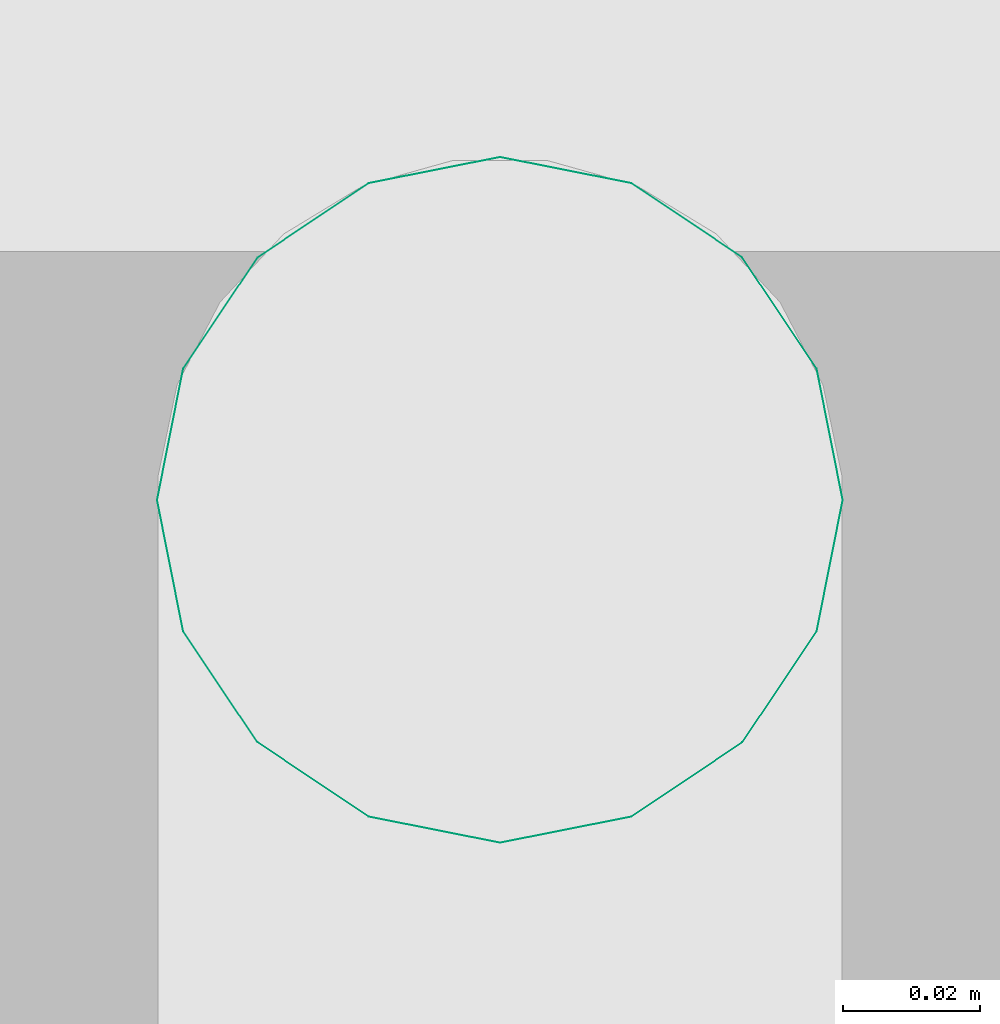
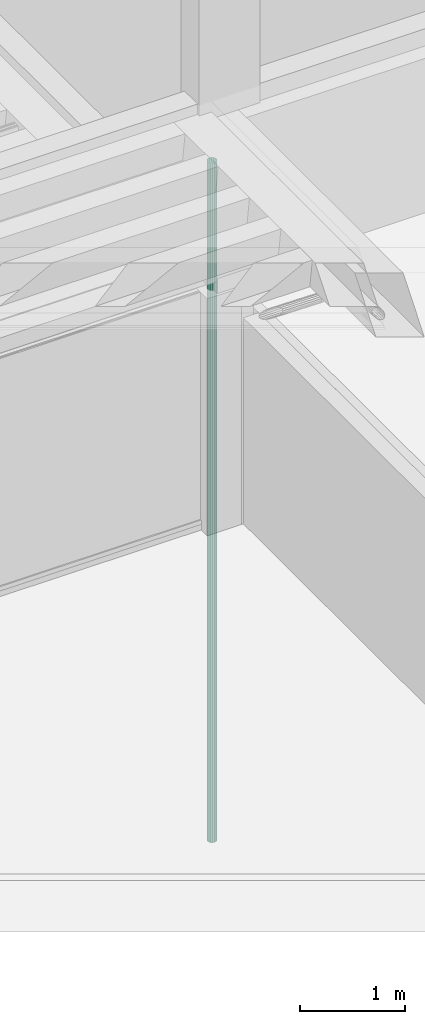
# One storey, part 55 of 108: 1 flow segment.
"""IFC2X3 building model written with IfcOpenShell, lengths in metres."""

from ifc_helpers import new_model, entity, si_unit, converted_unit, derived_unit, money_unit, direction, frame, origin_with_axes, place, context, subcontext, project, spatial, faceted_brep, material, type_object, element, save


model = new_model("IFC2X3")

# Units and contexts
model_context = context("Model", 3, precision=1e-05, world=origin_with_axes(), true_north=direction((0.0, 1.0)))
body_context = subcontext(model_context, "Body", "Model", "MODEL_VIEW", scale=1.0)
ifc_project = project(units=[si_unit("LENGTHUNIT", "METRE"), si_unit("AREAUNIT", "SQUARE_METRE"), si_unit("VOLUMEUNIT", "CUBIC_METRE"), si_unit("ABSORBEDDOSEUNIT", "GRAY"), si_unit("AMOUNTOFSUBSTANCEUNIT", "MOLE"), si_unit("DOSEEQUIVALENTUNIT", "SIEVERT"), si_unit("ELECTRICCAPACITANCEUNIT", "FARAD"), si_unit("ELECTRICCHARGEUNIT", "COULOMB"), si_unit("ELECTRICCONDUCTANCEUNIT", "SIEMENS"), si_unit("ELECTRICCURRENTUNIT", "AMPERE"), si_unit("ELECTRICRESISTANCEUNIT", "OHM"), si_unit("ELECTRICVOLTAGEUNIT", "VOLT"), si_unit("ENERGYUNIT", "JOULE"), si_unit("FORCEUNIT", "NEWTON"), si_unit("FREQUENCYUNIT", "HERTZ"), si_unit("ILLUMINANCEUNIT", "LUX"), si_unit("INDUCTANCEUNIT", "HENRY"), si_unit("LUMINOUSFLUXUNIT", "LUMEN"), si_unit("LUMINOUSINTENSITYUNIT", "CANDELA"), si_unit("MAGNETICFLUXDENSITYUNIT", "TESLA"), si_unit("MAGNETICFLUXUNIT", "WEBER"), si_unit("MASSUNIT", "GRAM"), converted_unit("PLANEANGLEUNIT", "degree", entity("IfcReal", 0.0174532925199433), si_unit("PLANEANGLEUNIT", "RADIAN"), dimensions=[0, 0, 0, 0, 0, 0, 0]), si_unit("POWERUNIT", "WATT"), si_unit("PRESSUREUNIT", "PASCAL"), si_unit("RADIOACTIVITYUNIT", "BECQUEREL"), si_unit("SOLIDANGLEUNIT", "STERADIAN"), si_unit("THERMODYNAMICTEMPERATUREUNIT", "KELVIN"), si_unit("TIMEUNIT", "SECOND"), derived_unit("ACCELERATIONUNIT", [(si_unit("LENGTHUNIT", "METRE"), 1), (si_unit("TIMEUNIT", "SECOND"), -2)]), derived_unit("ANGULARVELOCITYUNIT", [(converted_unit("PLANEANGLEUNIT", "degree", entity("IfcReal", 0.0174532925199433), si_unit("PLANEANGLEUNIT", "RADIAN"), dimensions=[0, 0, 0, 0, 0, 0, 0]), 1), (si_unit("TIMEUNIT", "SECOND"), -1)]), derived_unit("CURVATUREUNIT", [(converted_unit("PLANEANGLEUNIT", "degree", entity("IfcReal", 0.0174532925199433), si_unit("PLANEANGLEUNIT", "RADIAN"), dimensions=[0, 0, 0, 0, 0, 0, 0]), 1), (si_unit("LENGTHUNIT", "METRE"), -1)]), derived_unit("DYNAMICVISCOSITYUNIT", [(si_unit("PRESSUREUNIT", "PASCAL"), 1), (si_unit("TIMEUNIT", "SECOND"), 1)]), derived_unit("HEATFLUXDENSITYUNIT", [(si_unit("POWERUNIT", "WATT"), 1), (si_unit("LENGTHUNIT", "METRE"), -2)]), derived_unit("HEATINGVALUEUNIT", [(si_unit("ENERGYUNIT", "JOULE"), 1), (si_unit("MASSUNIT", "GRAM"), -1)]), derived_unit("INTEGERCOUNTRATEUNIT", [(si_unit("TIMEUNIT", "SECOND"), -1)]), derived_unit("IONCONCENTRATIONUNIT", [(si_unit("MASSUNIT", "GRAM"), 1), (si_unit("VOLUMEUNIT", "CUBIC_METRE"), -1)]), derived_unit("ISOTHERMALMOISTURECAPACITYUNIT", [(si_unit("VOLUMEUNIT", "CUBIC_METRE"), 1), (si_unit("MASSUNIT", "GRAM"), -1)]), derived_unit("KINEMATICVISCOSITYUNIT", [(si_unit("AREAUNIT", "SQUARE_METRE"), 1), (si_unit("TIMEUNIT", "SECOND"), -1)]), derived_unit("LINEARFORCEUNIT", [(si_unit("FORCEUNIT", "NEWTON"), 1), (si_unit("LENGTHUNIT", "METRE"), -1)]), derived_unit("LINEARMOMENTUNIT", [(si_unit("FORCEUNIT", "NEWTON"), 1), (si_unit("LENGTHUNIT", "METRE"), -1)]), derived_unit("LINEARSTIFFNESSUNIT", [(si_unit("FORCEUNIT", "NEWTON"), 1), (si_unit("LENGTHUNIT", "METRE"), -1)]), derived_unit("LINEARVELOCITYUNIT", [(si_unit("LENGTHUNIT", "METRE"), 1), (si_unit("TIMEUNIT", "SECOND"), -1)]), derived_unit("LUMINOUSINTENSITYDISTRIBUTIONUNIT", [(si_unit("LUMINOUSINTENSITYUNIT", "CANDELA"), 1), (si_unit("LUMINOUSFLUXUNIT", "LUMEN"), -1)]), derived_unit("MASSDENSITYUNIT", [(si_unit("MASSUNIT", "GRAM"), 1), (si_unit("VOLUMEUNIT", "CUBIC_METRE"), -1)]), derived_unit("MASSFLOWRATEUNIT", [(si_unit("MASSUNIT", "GRAM"), 1), (si_unit("TIMEUNIT", "SECOND"), -1)]), derived_unit("MASSPERLENGTHUNIT", [(si_unit("MASSUNIT", "GRAM"), 1), (si_unit("LENGTHUNIT", "METRE"), -1)]), derived_unit("MODULUSOFELASTICITYUNIT", [(si_unit("FORCEUNIT", "NEWTON"), 1), (si_unit("AREAUNIT", "SQUARE_METRE"), -1)]), derived_unit("MODULUSOFLINEARSUBGRADEREACTIONUNIT", [(si_unit("FORCEUNIT", "NEWTON"), 1), (si_unit("LENGTHUNIT", "METRE"), -2)]), derived_unit("MODULUSOFROTATIONALSUBGRADEREACTIONUNIT", [(si_unit("FORCEUNIT", "NEWTON"), 1), (si_unit("LENGTHUNIT", "METRE"), 1)]), derived_unit("MODULUSOFSUBGRADEREACTIONUNIT", [(si_unit("FORCEUNIT", "NEWTON"), 1), (si_unit("VOLUMEUNIT", "CUBIC_METRE"), -1)]), derived_unit("MOISTUREDIFFUSIVITYUNIT", [(si_unit("VOLUMEUNIT", "CUBIC_METRE"), 1), (si_unit("TIMEUNIT", "SECOND"), -1)]), derived_unit("MOLECULARWEIGHTUNIT", [(si_unit("MASSUNIT", "GRAM"), 1), (si_unit("AMOUNTOFSUBSTANCEUNIT", "MOLE"), -1)]), derived_unit("PLANARFORCEUNIT", [(si_unit("FORCEUNIT", "NEWTON"), 1), (si_unit("LENGTHUNIT", "METRE"), -2)]), derived_unit("ROTATIONALFREQUENCYUNIT", [(si_unit("TIMEUNIT", "SECOND"), -1)]), derived_unit("ROTATIONALMASSUNIT", [(si_unit("MASSUNIT", "GRAM"), 1), (si_unit("LENGTHUNIT", "METRE"), 2)]), derived_unit("ROTATIONALSTIFFNESSUNIT", [(si_unit("FORCEUNIT", "NEWTON"), 1), (si_unit("LENGTHUNIT", "METRE"), 1), (converted_unit("PLANEANGLEUNIT", "degree", entity("IfcReal", 0.0174532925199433), si_unit("PLANEANGLEUNIT", "RADIAN"), dimensions=[0, 0, 0, 0, 0, 0, 0]), -1)]), derived_unit("SECTIONAREAINTEGRALUNIT", [(si_unit("LENGTHUNIT", "METRE"), 5)]), derived_unit("SECTIONMODULUSUNIT", [(si_unit("LENGTHUNIT", "METRE"), 3)]), derived_unit("SHEARMODULUSUNIT", [(si_unit("FORCEUNIT", "NEWTON"), 1), (si_unit("AREAUNIT", "SQUARE_METRE"), -1)]), derived_unit("SOUNDPOWERUNIT", [(si_unit("ENERGYUNIT", "JOULE"), 1), (si_unit("TIMEUNIT", "SECOND"), -1)]), derived_unit("SPECIFICHEATCAPACITYUNIT", [(si_unit("FORCEUNIT", "NEWTON"), 1), (si_unit("MASSUNIT", "GRAM"), -1), (si_unit("THERMODYNAMICTEMPERATUREUNIT", "KELVIN"), -1)]), derived_unit("TEMPERATUREGRADIENTUNIT", [(si_unit("THERMODYNAMICTEMPERATUREUNIT", "KELVIN"), 1), (si_unit("LENGTHUNIT", "METRE"), -1)]), derived_unit("THERMALADMITTANCEUNIT", [(si_unit("POWERUNIT", "WATT"), 1), (si_unit("AREAUNIT", "SQUARE_METRE"), -1), (si_unit("THERMODYNAMICTEMPERATUREUNIT", "KELVIN"), -1)]), derived_unit("THERMALCONDUCTANCEUNIT", [(si_unit("POWERUNIT", "WATT"), 1), (si_unit("LENGTHUNIT", "METRE"), -1), (si_unit("THERMODYNAMICTEMPERATUREUNIT", "KELVIN"), -1)]), derived_unit("THERMALEXPANSIONCOEFFICIENTUNIT", [(si_unit("THERMODYNAMICTEMPERATUREUNIT", "KELVIN"), -1)]), derived_unit("THERMALRESISTANCEUNIT", [(si_unit("AREAUNIT", "SQUARE_METRE"), 1), (si_unit("POWERUNIT", "WATT"), -1)]), derived_unit("THERMALTRANSMITTANCEUNIT", [(si_unit("POWERUNIT", "WATT"), 1), (si_unit("AREAUNIT", "SQUARE_METRE"), -1), (si_unit("THERMODYNAMICTEMPERATUREUNIT", "KELVIN"), -1)]), derived_unit("TORQUEUNIT", [(si_unit("FORCEUNIT", "NEWTON"), 1), (si_unit("LENGTHUNIT", "METRE"), 1)]), derived_unit("VAPORPERMEABILITYUNIT", [(si_unit("MASSUNIT", "GRAM"), 1), (si_unit("TIMEUNIT", "SECOND"), -1)]), derived_unit("VOLUMETRICFLOWRATEUNIT", [(si_unit("VOLUMEUNIT", "CUBIC_METRE"), 1), (si_unit("TIMEUNIT", "SECOND"), -1)]), derived_unit("WARPINGCONSTANTUNIT", [(si_unit("LENGTHUNIT", "METRE"), 6)]), derived_unit("WARPINGMOMENTUNIT", [(si_unit("FORCEUNIT", "NEWTON"), 1), (si_unit("LENGTHUNIT", "METRE"), 2)]), money_unit("GBP")], contexts=[model_context])

# Site, building, storey
site_placement = place(None, origin_with_axes())
site = spatial("IfcSite", under=ifc_project, at=site_placement, Name="Site", CompositionType="ELEMENT")
building_placement = place(site_placement, origin_with_axes())
building = spatial("IfcBuilding", under=site, at=building_placement, Name="Building01", CompositionType="ELEMENT")
storey_placement = place(building_placement, origin_with_axes())
storey = spatial("IfcBuildingStorey", under=building, at=storey_placement, Name="GF", CompositionType="ELEMENT", Elevation=0.0)

# Flow segment
ifc_material = material(Name="M_BSUK_ColdWater")
pipe_segment_type = type_object("IfcPipeSegmentType", Name="M-BmpStraightpipe-DefaultPipe", PredefinedType="RIGIDSEGMENT")
flow_segment_placement = place(storey_placement, frame((8.909935, 14.413794, -3.480655), z_axis=(1.0, 0.0, 0.0), x_axis=(0.0, 0.0, 1.0)))
element("IfcFlowSegment", 1, at=flow_segment_placement, inside=storey, type_object=pipe_segment_type, material=ifc_material, Name="M-BmpStraightpipe-DefaultPipe", ObjectType="M-BmpStraightpipe-DefaultPipe", context=body_context, shape_type="Brep", body=[
    faceted_brep([(7.925401, 0.0, -0.05), (0.0, 0.0, -0.05), (0.0, 0.019134, -0.046194), (7.925401, 0.019134, -0.046194), (0.0, 0.035355, -0.035355), (7.925401, 0.035355, -0.035355), (0.0, 0.046194, -0.019134), (7.925401, 0.046194, -0.019134), (0.0, 0.05, 0.0), (7.925401, 0.05, 0.0), (0.0, 0.046194, 0.019134), (7.925401, 0.046194, 0.019134), (0.0, 0.035355, 0.035355), (7.925401, 0.035355, 0.035355), (0.0, 0.019134, 0.046194), (7.925401, 0.019134, 0.046194), (0.0, 0.0, 0.05), (7.925401, 0.0, 0.05), (0.0, -0.019134, 0.046194), (7.925401, -0.019134, 0.046194), (0.0, -0.035355, 0.035355), (7.925401, -0.035355, 0.035355), (0.0, -0.046194, 0.019134), (7.925401, -0.046194, 0.019134), (0.0, -0.05, 0.0), (7.925401, -0.05, 0.0), (0.0, -0.046194, -0.019134), (7.925401, -0.046194, -0.019134), (0.0, -0.035355, -0.035355), (7.925401, -0.035355, -0.035355), (0.0, -0.019134, -0.046194), (7.925401, -0.019134, -0.046194)], [[[0, 1, 2, 3]], [[3, 2, 4, 5]], [[5, 4, 6, 7]], [[7, 6, 8, 9]], [[9, 8, 10, 11]], [[11, 10, 12, 13]], [[13, 12, 14, 15]], [[15, 14, 16, 17]], [[17, 16, 18, 19]], [[19, 18, 20, 21]], [[21, 20, 22, 23]], [[23, 22, 24, 25]], [[25, 24, 26, 27]], [[27, 26, 28, 29]], [[29, 28, 30, 31]], [[31, 30, 1, 0]]]),
])

save(model, "model.ifc")
